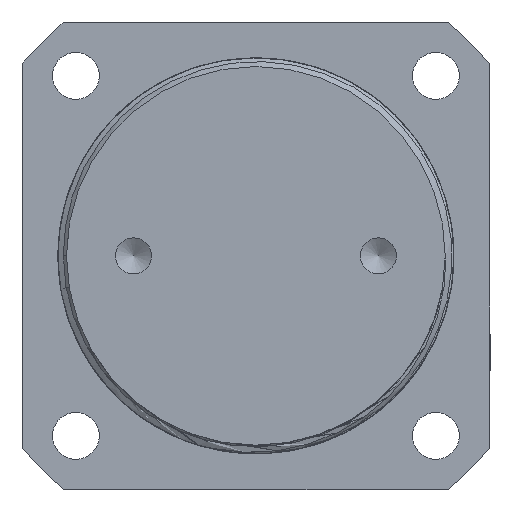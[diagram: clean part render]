
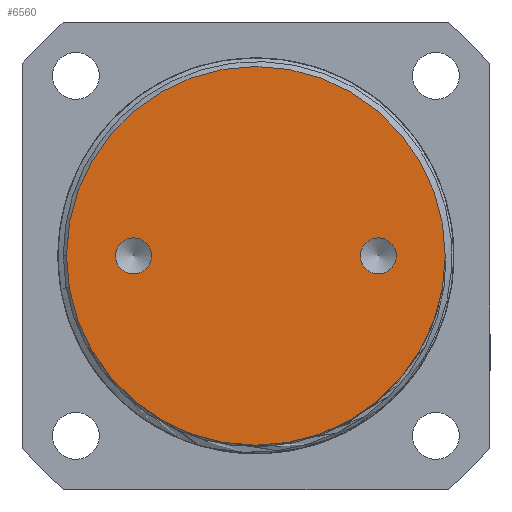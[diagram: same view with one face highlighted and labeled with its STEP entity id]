
A CAD part, front view. The second image highlights one B-rep face of the part: STEP entity #6560.
In plain terms, the highlighted planar face has unit normal (0, -1, 0).
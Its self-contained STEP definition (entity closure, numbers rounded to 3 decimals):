
#241=FACE_BOUND('',#1080,.T.);
#242=FACE_BOUND('',#1081,.T.);
#302=PLANE('',#7116);
#689=FACE_OUTER_BOUND('',#1079,.T.);
#1079=EDGE_LOOP('',(#5235));
#1080=EDGE_LOOP('',(#5236));
#1081=EDGE_LOOP('',(#5237,#5238));
#1381=CIRCLE('',#7115,26.3);
#1382=CIRCLE('',#7117,2.5);
#1383=CIRCLE('',#7118,2.5);
#1384=CIRCLE('',#7119,2.5);
#2971=VERTEX_POINT('',#33903);
#2972=VERTEX_POINT('',#33907);
#2973=VERTEX_POINT('',#33909);
#2974=VERTEX_POINT('',#33910);
#3794=EDGE_CURVE('',#2971,#2971,#1381,.T.);
#3796=EDGE_CURVE('',#2972,#2972,#1382,.T.);
#3797=EDGE_CURVE('',#2973,#2974,#1383,.T.);
#3798=EDGE_CURVE('',#2974,#2973,#1384,.T.);
#5235=ORIENTED_EDGE('',*,*,#3794,.T.);
#5236=ORIENTED_EDGE('',*,*,#3796,.T.);
#5237=ORIENTED_EDGE('',*,*,#3797,.F.);
#5238=ORIENTED_EDGE('',*,*,#3798,.F.);
#6560=ADVANCED_FACE('',(#689,#241,#242),#302,.T.);
#7115=AXIS2_PLACEMENT_3D('',#33904,#8056,#8057);
#7116=AXIS2_PLACEMENT_3D('',#33906,#8059,#8060);
#7117=AXIS2_PLACEMENT_3D('',#33908,#8061,#8062);
#7118=AXIS2_PLACEMENT_3D('',#33911,#8063,#8064);
#7119=AXIS2_PLACEMENT_3D('',#33912,#8065,#8066);
#8056=DIRECTION('center_axis',(0.,-1.,0.));
#8057=DIRECTION('ref_axis',(1.,0.,0.));
#8059=DIRECTION('center_axis',(0.,-1.,0.));
#8060=DIRECTION('ref_axis',(-1.,0.,0.));
#8061=DIRECTION('center_axis',(0.,1.,0.));
#8062=DIRECTION('ref_axis',(1.,0.,0.));
#8063=DIRECTION('center_axis',(0.,-1.,0.));
#8064=DIRECTION('ref_axis',(-1.,0.,0.));
#8065=DIRECTION('center_axis',(0.,-1.,0.));
#8066=DIRECTION('ref_axis',(-1.,0.,0.));
#33903=CARTESIAN_POINT('',(26.3,-72.5,0.));
#33904=CARTESIAN_POINT('Origin',(0.,-72.5,0.));
#33906=CARTESIAN_POINT('Origin',(0.,-72.5,0.));
#33907=CARTESIAN_POINT('',(14.5,-72.5,0.));
#33908=CARTESIAN_POINT('Origin',(17.,-72.5,0.));
#33909=CARTESIAN_POINT('',(-19.5,-72.5,0.));
#33910=CARTESIAN_POINT('',(-14.5,-72.5,0.));
#33911=CARTESIAN_POINT('Origin',(-17.,-72.5,0.));
#33912=CARTESIAN_POINT('Origin',(-17.,-72.5,0.));
